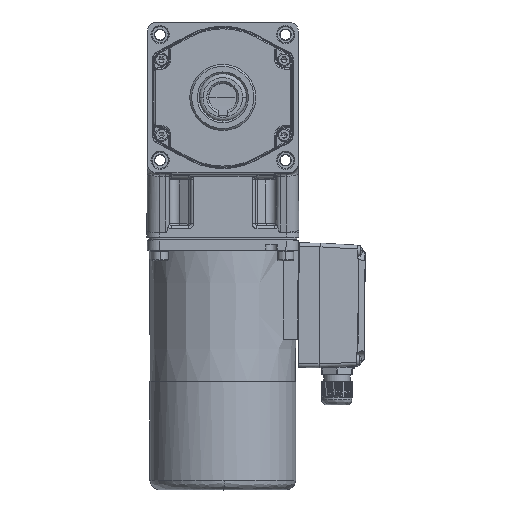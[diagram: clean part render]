
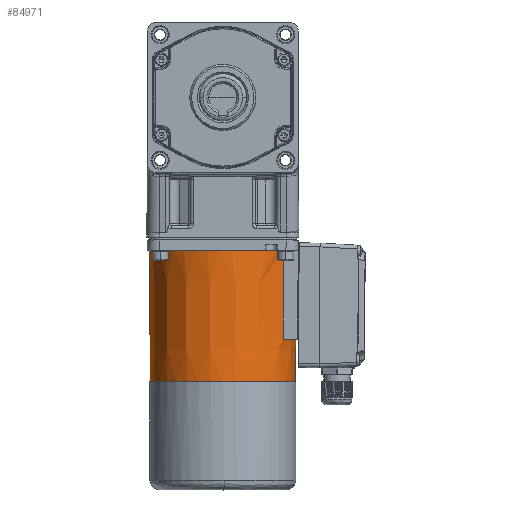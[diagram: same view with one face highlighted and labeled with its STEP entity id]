
A CAD part, top view. The second image highlights one B-rep face of the part: STEP entity #84971.
In plain terms, the highlighted conical face has half-angle 0.47 degrees and reference radius 38.947 mm.
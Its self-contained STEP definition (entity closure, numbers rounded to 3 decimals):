
#113 = ORIENTED_EDGE ( 'NONE', *, *, #13741, .T. ) ;
#1259 = CARTESIAN_POINT ( 'NONE',  ( 0., 69.5, 38.377 ) ) ;
#3004 = LINE ( 'NONE', #34629, #52889 ) ;
#5614 = DIRECTION ( 'NONE',  ( 0., 1., 0. ) ) ;
#10330 = ORIENTED_EDGE ( 'NONE', *, *, #91179, .F. ) ;
#11941 = DIRECTION ( 'NONE',  ( 0., -1., 0. ) ) ;
#12711 = ORIENTED_EDGE ( 'NONE', *, *, #74805, .T. ) ;
#12978 = CARTESIAN_POINT ( 'NONE',  ( 22., 0., 32.138 ) ) ;
#13088 = CARTESIAN_POINT ( 'NONE',  ( 21.59, 47., 31.951 ) ) ;
#13716 = CARTESIAN_POINT ( 'NONE',  ( 21.863, 15.712, 32.076 ) ) ;
#13741 = EDGE_CURVE ( 'NONE', #33925, #84330, #88914, .T. ) ;
#14425 = CARTESIAN_POINT ( 'NONE',  ( 21.726, 31.379, 32.013 ) ) ;
#15803 = ORIENTED_EDGE ( 'NONE', *, *, #34072, .T. ) ;
#19921 = DIRECTION ( 'NONE',  ( 0., -1., -0.008 ) ) ;
#24282 = VERTEX_POINT ( 'NONE', #63069 ) ;
#25915 = CIRCLE ( 'NONE', #29089, 38.947 ) ;
#28041 = AXIS2_PLACEMENT_3D ( 'NONE', #49047, #5614, #56298 ) ;
#28907 = DIRECTION ( 'NONE',  ( 0., -1., 0. ) ) ;
#28966 = VERTEX_POINT ( 'NONE', #38911 ) ;
#29089 = AXIS2_PLACEMENT_3D ( 'NONE', #84396, #41334, #91511 ) ;
#29419 = CIRCLE ( 'NONE', #28041, 38.561 ) ;
#31070 = AXIS2_PLACEMENT_3D ( 'NONE', #72022, #28907, #79179 ) ;
#33925 = VERTEX_POINT ( 'NONE', #77663 ) ;
#34072 = EDGE_CURVE ( 'NONE', #28966, #91398, #91986, .T. ) ;
#34629 = CARTESIAN_POINT ( 'NONE',  ( 0., 0., 38.947 ) ) ;
#35281 = VECTOR ( 'NONE', #19921, 1000. ) ;
#37730 = CARTESIAN_POINT ( 'NONE',  ( 0., 47., 38.561 ) ) ;
#38911 = CARTESIAN_POINT ( 'NONE',  ( 0., 69.5, -38.377 ) ) ;
#41334 = DIRECTION ( 'NONE',  ( 0., 1., 0. ) ) ;
#43453 = FACE_OUTER_BOUND ( 'NONE', #92294, .T. ) ;
#46756 = LINE ( 'NONE', #70380, #35281 ) ;
#47726 = AXIS2_PLACEMENT_3D ( 'NONE', #83821, #11941, #62512 ) ;
#49047 = CARTESIAN_POINT ( 'NONE',  ( 0., 47., 0. ) ) ;
#52889 = VECTOR ( 'NONE', #77664, 1000. ) ;
#56298 = DIRECTION ( 'NONE',  ( 0., 0., -1. ) ) ;
#62512 = DIRECTION ( 'NONE',  ( 0., 0., -1. ) ) ;
#63069 = CARTESIAN_POINT ( 'NONE',  ( 0., 0., -38.947 ) ) ;
#64956 = EDGE_CURVE ( 'NONE', #74111, #33925, #29419, .T. ) ;
#65200 = CARTESIAN_POINT ( 'NONE',  ( 22., 0., 32.138 ) ) ;
#68705 = EDGE_CURVE ( 'NONE', #91398, #74111, #3004, .T. ) ;
#68805 = ORIENTED_EDGE ( 'NONE', *, *, #64956, .T. ) ;
#70380 = CARTESIAN_POINT ( 'NONE',  ( 0., 0., -38.947 ) ) ;
#71895 = CONICAL_SURFACE ( 'NONE', #47726, 38.947, 0.008 ) ;
#72022 = CARTESIAN_POINT ( 'NONE',  ( 0., 69.5, 0. ) ) ;
#74111 = VERTEX_POINT ( 'NONE', #37730 ) ;
#74805 = EDGE_CURVE ( 'NONE', #84330, #24282, #25915, .T. ) ;
#76145 = ORIENTED_EDGE ( 'NONE', *, *, #68705, .T. ) ;
#77663 = CARTESIAN_POINT ( 'NONE',  ( 21.59, 47., 31.951 ) ) ;
#77664 = DIRECTION ( 'NONE',  ( 0., -1., 0.008 ) ) ;
#79179 = DIRECTION ( 'NONE',  ( 0., 0., -1. ) ) ;
#83821 = CARTESIAN_POINT ( 'NONE',  ( 0., 0., 0. ) ) ;
#84330 = VERTEX_POINT ( 'NONE', #65200 ) ;
#84396 = CARTESIAN_POINT ( 'NONE',  ( 0., 0., 0. ) ) ;
#84971 = ADVANCED_FACE ( 'NONE', ( #43453 ), #71895, .T. ) ;
#88914 =( BOUNDED_CURVE ( )  B_SPLINE_CURVE ( 3, ( #13088, #14425, #13716, #12978 ),
 .UNSPECIFIED., .F., .F. ) 
 B_SPLINE_CURVE_WITH_KNOTS ( ( 4, 4 ),
 ( 3.781, 3.785 ),
 .UNSPECIFIED. ) 
 CURVE ( )  GEOMETRIC_REPRESENTATION_ITEM ( )  RATIONAL_B_SPLINE_CURVE ( ( 1., 1., 1., 1. ) ) 
 REPRESENTATION_ITEM ( '' )  );
#91179 = EDGE_CURVE ( 'NONE', #28966, #24282, #46756, .T. ) ;
#91398 = VERTEX_POINT ( 'NONE', #1259 ) ;
#91511 = DIRECTION ( 'NONE',  ( 0., 0., -1. ) ) ;
#91986 = CIRCLE ( 'NONE', #31070, 38.377 ) ;
#92294 = EDGE_LOOP ( 'NONE', ( #15803, #76145, #68805, #113, #12711, #10330 ) ) ;
